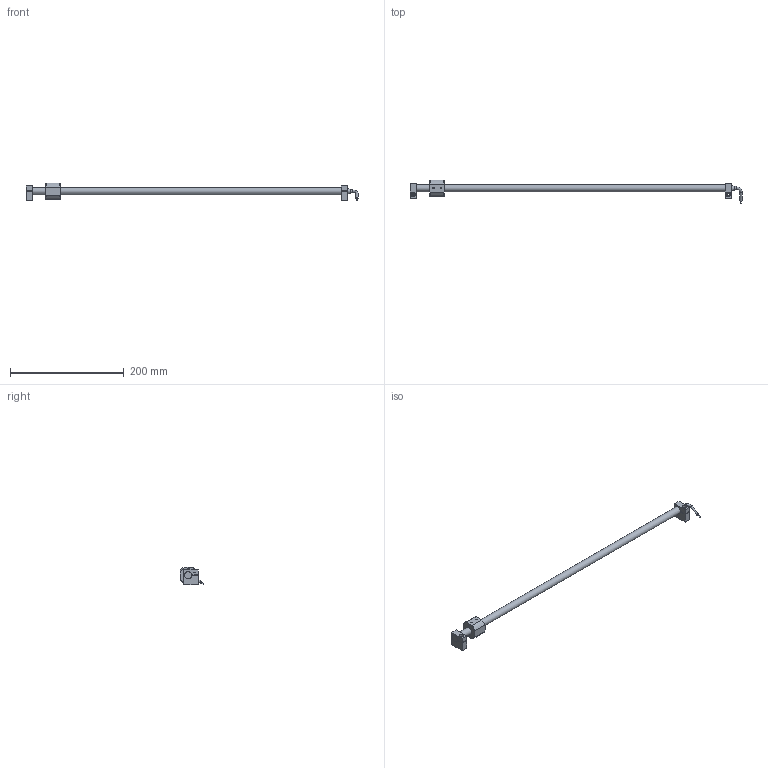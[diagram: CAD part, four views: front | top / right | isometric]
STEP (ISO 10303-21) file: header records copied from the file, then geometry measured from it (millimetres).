
FILE_DESCRIPTION (( 'STEP AP214' ), '1' );
FILE_NAME ('REM13-500.STEP', '2018-04-26T07:36:03', ( '' ), ( '' ), 'SwSTEP 2.0', 'SolidWorks 2017', '' );
FILE_SCHEMA (( 'AUTOMOTIVE_DESIGN' ));
Length unit declared in the file: millimetre
Products named in the file (6): REM13-500; Stecker; Magn.Schleifer; Befestigungsbügel; Messrohr_REM13-650; Kabel
Assembly tree (6 placements, depth 2):
  REM13-500
    Messrohr_REM13-650
    Stecker
    Kabel
    Magn.Schleifer
    Befestigungsbügel  x2
Bounding box: 583.5 x 42.1 x 31.3 mm (x, y, z)
Volume: 97948 mm3; surface area: 35243.7 mm2
Topology: 6 solids, 6 shells, 84 faces, 189 edges, 126 vertices
Faces by surface type: plane 39, cylinder 35, cone 9, torus 1
Full cylindrical faces by diameter (mm): 0.3 x3, 2.5 x8, 3.3 x2, 4 x5, 4.5 x2, 6 x1, 8 x2, 11 x1, 12.7 x1, 13 x1
Entity records: 2683 total; most frequent: CARTESIAN_POINT 798, DIRECTION 319, ORIENTED_EDGE 258, AXIS2_PLACEMENT_3D 139, EDGE_LOOP 129, EDGE_CURVE 129, VERTEX_POINT 102, FACE_OUTER_BOUND 94
